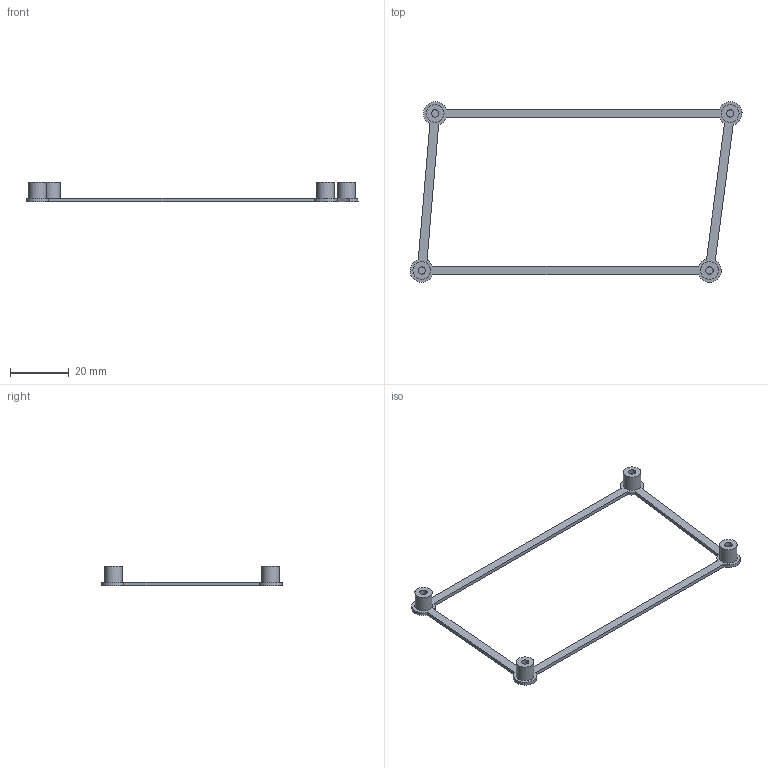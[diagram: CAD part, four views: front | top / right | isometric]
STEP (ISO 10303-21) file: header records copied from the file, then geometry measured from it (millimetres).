
FILE_DESCRIPTION(('Open CASCADE Model'),'2;1');
FILE_NAME('Open CASCADE Shape Model','2026-11-14T12:48:49',('Author'),( 'Open CASCADE'),'Open CASCADE STEP processor 7.9','Open CASCADE 7.9' ,'Unknown');
FILE_SCHEMA(('AUTOMOTIVE_DESIGN { 1 0 10303 214 1 1 1 1 }'));
Length unit declared in the file: millimetre
Products named in the file (1): Open CASCADE STEP translator 7.9 6
Bounding box: 113.09 x 61.5 x 6.8 mm (x, y, z)
Volume: 1754.4 mm3; surface area: 3404.6 mm2
Topology: 1 solids, 1 shells, 34 faces, 72 edges, 48 vertices
Faces by surface type: plane 18, cylinder 16
Full cylindrical faces by diameter (mm): 2.5 x4, 6 x4
Entity records: 1896 total; most frequent: CARTESIAN_POINT 335, DIRECTION 312, LINE 152, VECTOR 152, ORIENTED_EDGE 144, PCURVE 144, DEFINITIONAL_REPRESENTATION 144, EDGE_CURVE 72
